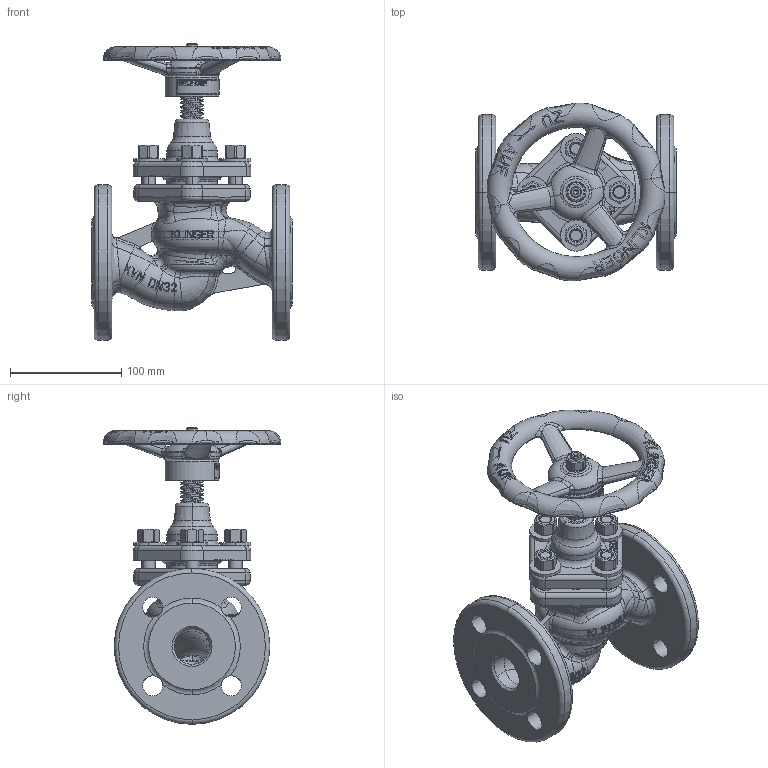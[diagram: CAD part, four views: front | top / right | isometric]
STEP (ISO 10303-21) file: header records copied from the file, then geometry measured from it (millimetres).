
FILE_DESCRIPTION((''),'2;1');
FILE_NAME('KVNFL032S-----P016DGG_SW0001','2014-09-22T',('schwaba'),('RAND'),'PRO/ENGINEER BY PARAMETRIC TECHNOLOGY CORPORATION, 2013410','PRO/ENGINEER BY PARAMETRIC TECHNOLOGY CORPORATION, 2013410','');
FILE_SCHEMA(('CONFIG_CONTROL_DESIGN'));
Products named in the file (1): KVNFL032S-----P016DGG_SW0001
Bounding box: 180 x 160 x 266.6 mm (x, y, z)
Volume: 1039298.6 mm3; surface area: 248184.6 mm2
Topology: 2 solids, 3 shells, 2715 faces, 7324 edges, 4660 vertices
Faces by surface type: plane 1494, bspline 576, cylinder 333, torus 184, cone 114, extrusion 14
Entity records: 193528 total; most frequent: CARTESIAN_POINT 132403, ORIENTED_EDGE 14640, DIRECTION 9918, EDGE_CURVE 7320, VERTEX_POINT 4660, AXIS2_PLACEMENT_3D 3531, B_SPLINE_CURVE_WITH_KNOTS 3086, VECTOR 2856
